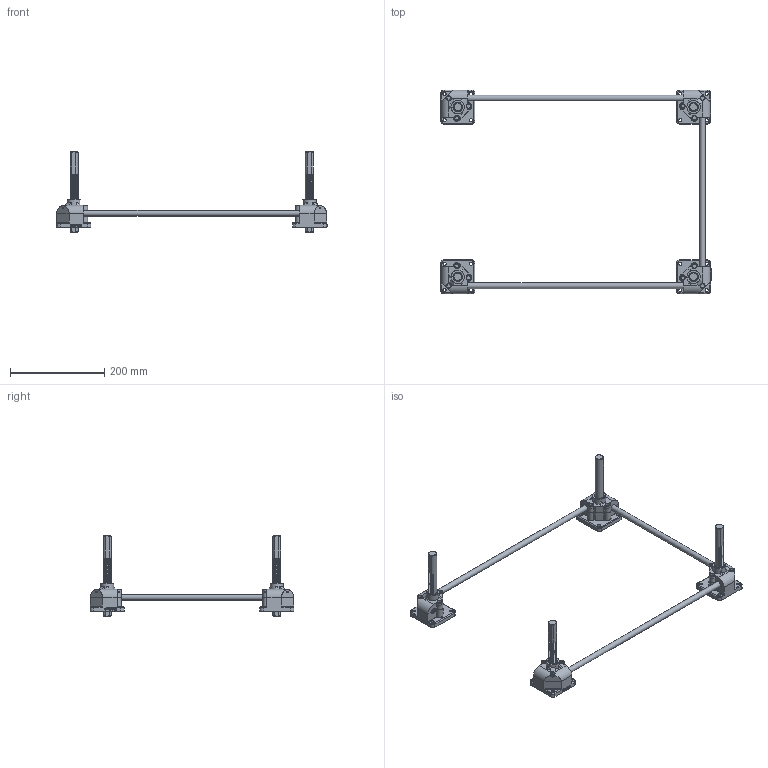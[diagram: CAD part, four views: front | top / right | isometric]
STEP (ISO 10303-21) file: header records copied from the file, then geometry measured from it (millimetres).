
FILE_DESCRIPTION(('STEP AP203'),'1');
FILE_NAME('SP300U-500x500-100ST.stp','2022-06-15T01:27:52',(' '),(' '),'Spatial InterOp 3D',' ',' ');
FILE_SCHEMA(('CONFIG_CONTROL_DESIGN'));
Length unit declared in the file: millimetre
Products named in the file (51): SP300U-500x500-100ST; ASSEM1; Body.1-Part; Bolt; Gear Box.1(Upper); Gear Box.1(Lower); RJ05-4SCJ-610X600-100ST_CAP; LABEL-B.1; ___; __; 파트18; Body.2-Part; Gear Box.2(Upper); Gear Box.2(LoWer); Body.3-Part; Gear Box.3(Upper); Gear Box.3(Lower); Body.4-Part; Gear Box.4(Upper); Gear Box.4(Lower); Shaft.1; Shaft.2
Assembly tree (51 placements, depth 6):
  SP300U-500x500-100ST
    ASSEM1
    (unnamed)
    (unnamed)
    (unnamed)
    Body.1-Part
      Bolt
      Bolt
      Bolt
      Gear Box.1(Upper)
      Gear Box.1(Lower)
      __
        ___
          RJ05-4SCJ-610X600-100ST_CAP
            LABEL-B.1
        파트18
    Body.2-Part
      Bolt
      Bolt
      Bolt
      Gear Box.2(Upper)
      Gear Box.2(LoWer)
      __
        ___
          RJ05-4SCJ-610X600-100ST_CAP
            LABEL-B.1
        파트18
    Body.3-Part
      Bolt
      Bolt
      Bolt
      Gear Box.3(Upper)
      Gear Box.3(Lower)
      __
        ___
          RJ05-4SCJ-610X600-100ST_CAP
            LABEL-B.1
        파트18
    Body.4-Part
      Bolt
      Bolt
      Bolt
      Gear Box.4(Upper)
      Gear Box.4(Lower)
      __
        ___
          RJ05-4SCJ-610X600-100ST_CAP
            LABEL-B.1
        파트18
    Shaft.1
    Shaft.2  x2
Bounding box: 573.74 x 432.24 x 170 mm (x, y, z)
Volume: 628404.3 mm3; surface area: 284860.5 mm2
Topology: 51 solids, 51 shells, 9027 faces, 25697 edges, 16680 vertices
Faces by surface type: plane 7814, cylinder 839, bspline 168, torus 104, cone 74, sphere 28
Full cylindrical faces by diameter (mm): 6 x24, 7 x28, 8 x4, 10 x24, 12 x3, 18.5 x8, 20.3 x16, 21.3 x8, 28 x4
Entity records: 303822 total; most frequent: CARTESIAN_POINT 68002, ORIENTED_EDGE 50576, DIRECTION 44884, EDGE_CURVE 25288, LINE 22336, VECTOR 22336, VERTEX_POINT 16648, AXIS2_PLACEMENT_3D 11274
